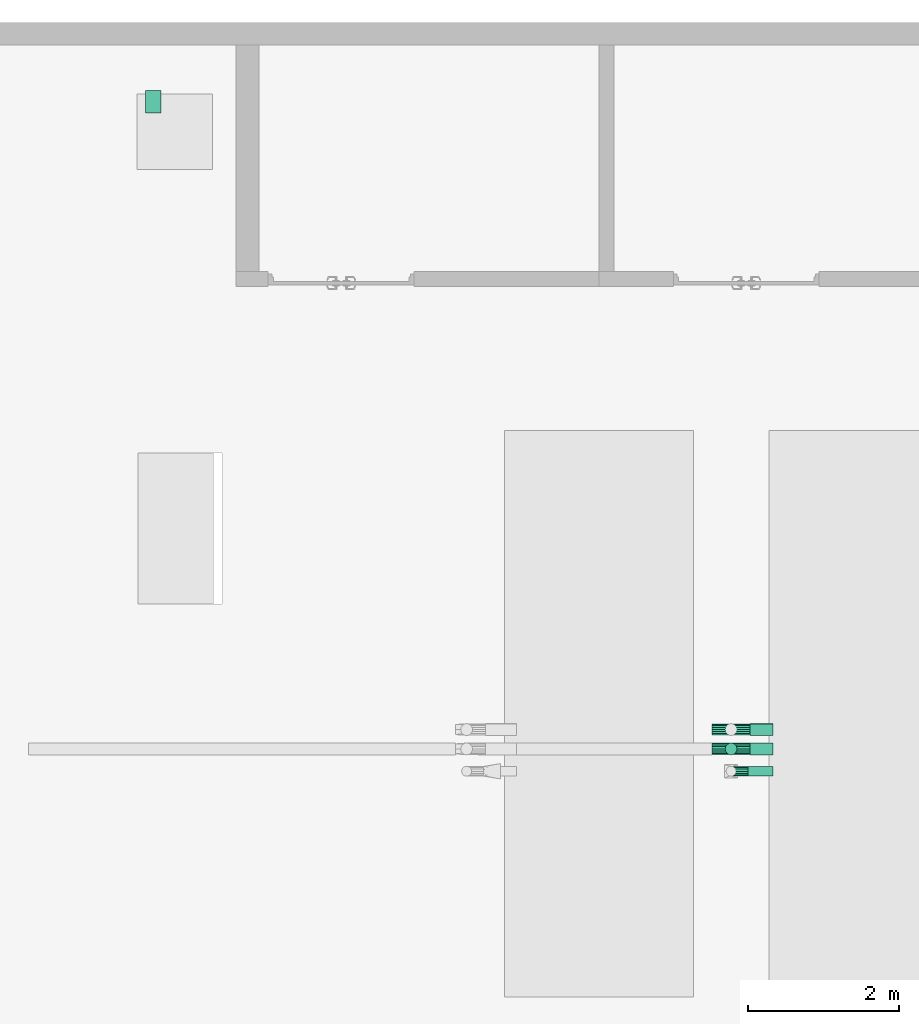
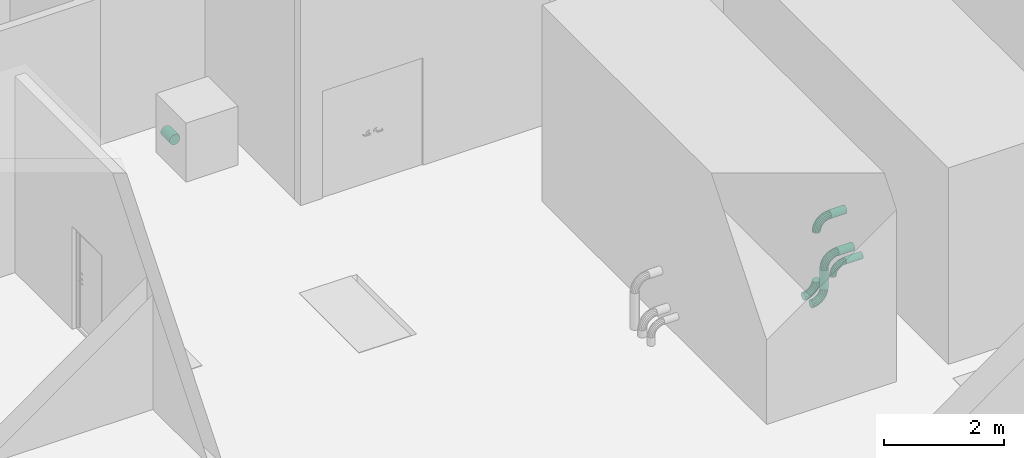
# One storey, part 21 of 23: 5 flow fittings, 5 flow segments.
"""IFC2X3 building model written with IfcOpenShell, lengths in millimetres."""

from ifc_helpers import new_model, entity, si_unit, converted_unit, direction, frame, origin, origin_2d_with_axis, place, context, subcontext, project, spatial, circle, extrude, faceted_brep, source, transform, mapped, material, type_object, type_shapes, element, save


model = new_model("IFC2X3")

# Units and contexts
model_context = context("Model", 3, precision=0.01, world=origin(), true_north=direction((6.123031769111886e-17, 1.0)))
body_context = subcontext(model_context, "Body", "Model", "MODEL_VIEW")
ifc_project = project(units=[si_unit("LENGTHUNIT", "METRE", prefix="MILLI"), converted_unit("PLANEANGLEUNIT", "DEGREE", entity("IfcPlaneAngleMeasure", 0.017453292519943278), si_unit("PLANEANGLEUNIT", "RADIAN"), dimensions=[0, 0, 0, 0, 0, 0, 0]), si_unit("AREAUNIT", "SQUARE_METRE")], contexts=[model_context])

# Site, building, storey
site_placement = place(None, frame((7776.576483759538, 118.3519876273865, 0.0)))
site = spatial("IfcSite", under=ifc_project, at=site_placement, Name="Default", CompositionType="ELEMENT")
building_placement = place(site_placement, origin())
building = spatial("IfcBuilding", under=site, at=building_placement, Name="Bygning (endres i Project Information)", CompositionType="ELEMENT")
storey_placement = place(building_placement, frame((0.0, 0.0, 19000.0)))
storey = spatial("IfcBuildingStorey", under=building, at=storey_placement, Name="Plan 01", CompositionType="ELEMENT", Elevation=19000.0)

# Flow segments
ifc_material = material(Name="SS 2343 Rustfritt stål, prosessrør, generisk")
pipe_segment_type = type_object("IfcPipeSegmentType", Name="Pipe Types:AISI 304L Rustfritt", PredefinedType="NOTDEFINED", material=ifc_material)
flow_segment_1_placement = place(storey_placement, origin())
element("IfcFlowSegment", 1, at=flow_segment_1_placement, inside=storey, type_object=pipe_segment_type, Name="Pipe Types:AISI 304L Rustfritt", ObjectType="Pipe Types:AISI 304L Rustfritt", context=body_context, shape_type="SweptSolid", body=[
    extrude(circle(Radius=78.0, at=origin_2d_with_axis()), frame((28074.001374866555, 25237.75730578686, 996.2612635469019), z_axis=(1.0, 0.0, 0.0), x_axis=(0.0, 1.0, 0.0)), (0.0, 0.0, 1.0), 301.8308970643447),
])
flow_segment_2_placement = place(storey_placement, origin())
element("IfcFlowSegment", 2, at=flow_segment_2_placement, inside=storey, type_object=pipe_segment_type, Name="Pipe Types:AISI 304L Rustfritt", ObjectType="Pipe Types:AISI 304L Rustfritt", context=body_context, shape_type="SweptSolid", body=[
    extrude(circle(Radius=78.0, at=origin_2d_with_axis()), frame((28074.001374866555, 24981.757305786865, 396.26126354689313), z_axis=(1.0, 0.0, 0.0), x_axis=(0.0, -1.0, 0.0)), (0.0, 0.0, 1.0), 301.8308970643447),
])
flow_segment_3_placement = place(storey_placement, origin())
element("IfcFlowSegment", 3, at=flow_segment_3_placement, inside=storey, type_object=pipe_segment_type, Name="Pipe Types:AISI 304L Rustfritt", ObjectType="Pipe Types:AISI 304L Rustfritt", context=body_context, shape_type="SweptSolid", body=[
    extrude(circle(Radius=78.0, at=origin_2d_with_axis()), frame((27824.001374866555, 24981.757305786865, -250.0)), (0.0, 0.0, 1.0), 396.2612635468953),
])
flow_segment_4_placement = place(storey_placement, origin())
element("IfcFlowSegment", 4, at=flow_segment_4_placement, inside=storey, type_object=pipe_segment_type, Name="Pipe Types:AISI 304L Rustfritt", ObjectType="Pipe Types:AISI 304L Rustfritt", context=body_context, shape_type="SweptSolid", body=[
    extrude(circle(Radius=65.5, at=origin_2d_with_axis()), frame((28049.00137486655, 24685.757305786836, 396.30000000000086), z_axis=(1.0, 0.0, 0.0), x_axis=(0.0, 1.0, 0.0)), (0.0, 0.0, 1.0), 326.8308970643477),
])
flow_segment_5_placement = place(storey_placement, origin())
element("IfcFlowSegment", 5, at=flow_segment_5_placement, inside=storey, type_object=pipe_segment_type, Name="Pipe Types:AISI 304L Rustfritt", ObjectType="Pipe Types:AISI 304L Rustfritt", context=body_context, shape_type="SweptSolid", body=[
    extrude(circle(Radius=103.0, at=origin_2d_with_axis()), frame((20177.001374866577, 33394.757305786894, 338.4197105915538), z_axis=(0.0, 1.0, 0.0), x_axis=(-1.0, 0.0, 0.0)), (0.0, 0.0, 1.0), 300.0000000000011),
])

# Flow fittings
pipe_fitting_type_1 = type_object("IfcPipeFittingType", Name="VA_prosess_rustfritt_bend_D+100:VA_prosess_rustfritt_bend_D+100", PredefinedType="NOTDEFINED", material=ifc_material)
shared_shape_1 = source(origin(), body_context, "Body", "Brep", [
    faceted_brep([(-177.68069646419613, -66.85157145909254, 0.0), (-178.95107627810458, -61.28567382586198, 28.701257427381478), (-250.0, -69.29096493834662, 28.701257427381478), (-250.0, -75.0, 0.0), (-182.56881190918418, -45.43533838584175, 53.033008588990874), (-250.0, -53.03300858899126, 53.033008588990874), (-187.98313590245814, -21.7136350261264, 69.29096493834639), (-250.0, -28.70125742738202, 69.29096493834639), (-194.36976651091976, 6.268021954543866, 75.0), (-250.0, 0.0, 75.0), (-200.7563971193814, 34.24967893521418, 69.29096493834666), (-250.0, 28.701257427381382, 69.29096493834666), (-206.17072111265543, 57.97138229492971, 53.033008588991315), (-250.0, 53.03300858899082, 53.033008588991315), (-209.78845674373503, 73.82171773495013, 28.70125742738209), (-250.0, 69.29096493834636, 28.70125742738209), (-211.05883655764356, 79.38761536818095, 0.0), (-250.0, 75.0, 0.0), (-209.78845674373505, 73.82171773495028, -28.70125742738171), (-250.0, 69.29096493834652, -28.70125742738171), (-206.17072111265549, 57.971382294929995, -53.03300858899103), (-250.0, 53.03300858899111, -53.03300858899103), (-200.75639711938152, 34.24967893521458, -69.29096493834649), (-250.0, 28.701257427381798, -69.29096493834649), (-194.36976651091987, 6.268021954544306, -75.0), (-250.0, 0.0, -75.0), (-187.98313590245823, -21.713635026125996, -69.29096493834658), (-250.0, -28.701257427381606, -69.29096493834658), (-182.56881190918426, -45.43533838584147, -53.033008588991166), (-250.0, -53.033008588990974, -53.033008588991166), (-178.95107627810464, -61.28567382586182, -28.7012574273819), (-250.0, -69.29096493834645, -28.7012574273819), (-108.9877847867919, -42.814882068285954, 0.0), (-111.4648422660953, -37.67121921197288, 28.701257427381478), (-118.5189051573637, -23.023306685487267, 53.033008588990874), (-129.07605633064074, -1.1011563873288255, 69.29096493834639), (-141.52906522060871, 24.75778302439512, 75.0), (-153.98207411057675, 50.6167224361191, 69.29096493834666), (-164.53922528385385, 72.53887273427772, 53.033008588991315), (-171.5932881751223, 87.18678526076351, 28.70125742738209), (-174.07034565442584, 92.33044811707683, 0.0), (-171.59328817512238, 87.18678526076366, -28.70125742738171), (-164.53922528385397, 72.53887273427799, -53.03300858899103), (-153.98207411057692, 50.616722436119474, -69.29096493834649), (-141.5290652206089, 24.757783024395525, -75.0), (-129.0760563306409, -1.1011563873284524, -69.29096493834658), (-118.51890515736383, -23.02330668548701, -53.033008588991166), (-111.46484226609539, -37.67121921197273, -28.7012574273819), (-47.365814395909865, -4.095231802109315, 0.0), (-50.92533953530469, 0.36827154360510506, 28.701257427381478), (-61.062009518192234, 13.079253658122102, 53.033008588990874), (-76.23260822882, 32.10258273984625, 69.29096493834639), (-94.12754953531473, 54.54212938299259, 75.0), (-112.02249084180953, 76.98167602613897, 69.29096493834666), (-127.19308955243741, 96.00500510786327, 53.033008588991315), (-137.32975953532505, 108.71598722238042, 28.70125742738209), (-140.88928467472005, 113.17949056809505, 0.0), (-137.32975953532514, 108.71598722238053, -28.70125742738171), (-127.19308955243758, 96.0050051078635, -53.03300858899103), (-112.02249084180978, 76.9816760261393, -69.29096493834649), (-94.12754953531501, 54.54212938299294, -75.0), (-76.23260822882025, 32.10258273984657, -69.29096493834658), (-61.06200951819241, 13.079253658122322, -53.033008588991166), (-50.92533953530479, 0.36827154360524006, -28.7012574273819), (4.095231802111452, 47.36581439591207, 0.0), (-0.36827154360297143, 50.9253395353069, 28.701257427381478), (-13.079253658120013, 61.06200951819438, 53.033008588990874), (-32.10258273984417, 76.23260822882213, 69.29096493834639), (-54.54212938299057, 94.12754953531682, 75.0), (-76.981676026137, 112.02249084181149, 69.29096493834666), (-96.00500510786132, 127.19308955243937, 53.033008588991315), (-108.71598722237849, 137.32975953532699, 28.70125742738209), (-113.17949056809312, 140.88928467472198, 0.0), (-108.71598722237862, 137.32975953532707, -28.70125742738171), (-96.00500510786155, 127.19308955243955, -53.03300858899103), (-76.98167602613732, 112.02249084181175, -69.29096493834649), (-54.542129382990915, 94.1275495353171, -75.0), (-32.1025827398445, 76.23260822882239, -69.29096493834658), (-13.079253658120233, 61.06200951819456, -53.033008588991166), (-0.3682715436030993, 50.925339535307, -28.7012574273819), (42.81488206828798, 108.98778478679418, 0.0), (37.671219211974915, 111.4648422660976, 28.701257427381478), (23.023306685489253, 118.51890515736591, 53.033008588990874), (1.1011563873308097, 129.0760563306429, 69.29096493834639), (-24.75778302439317, 141.52906522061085, 75.0), (-50.61672243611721, 153.98207411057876, 69.29096493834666), (-72.53887273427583, 164.53922528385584, 53.033008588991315), (-87.18678526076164, 171.59328817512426, 28.70125742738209), (-92.33044811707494, 174.0703456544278, 0.0), (-87.18678526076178, 171.59328817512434, -28.70125742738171), (-72.53887273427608, 164.53922528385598, -53.03300858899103), (-50.61672243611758, 153.98207411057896, -69.29096493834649), (-24.757783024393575, 141.52906522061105, -75.0), (1.101156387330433, 129.0760563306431, -69.29096493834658), (23.023306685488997, 118.51890515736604, -53.033008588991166), (37.67121921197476, 111.46484226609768, -28.7012574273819), (66.8515714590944, 177.68069646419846, 0.0), (61.285673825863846, 178.9510762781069, 28.701257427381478), (45.4353383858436, 182.56881190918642, 53.033008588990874), (21.713635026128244, 187.98313590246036, 69.29096493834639), (-6.268021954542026, 194.36976651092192, 75.0), (-34.24967893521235, 200.75639711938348, 69.29096493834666), (-57.9713822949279, 206.17072111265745, 53.033008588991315), (-73.82171773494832, 209.78845674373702, 28.70125742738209), (-79.38761536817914, 211.05883655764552, 0.0), (-73.82171773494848, 209.78845674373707, -28.70125742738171), (-57.97138229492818, 206.1707211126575, -53.03300858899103), (-34.249678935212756, 200.75639711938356, -69.29096493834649), (-6.268021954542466, 194.36976651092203, -75.0), (21.71363502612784, 187.98313590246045, -69.29096493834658), (45.43533838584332, 182.5688119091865, -53.033008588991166), (61.28567382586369, 178.95107627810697, -28.7012574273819), (75.0, 250.0, 0.0), (69.29096493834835, 250.0, 28.701257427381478), (53.033008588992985, 250.0, 53.033008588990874), (28.701257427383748, 250.0, 69.29096493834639), (0.0, 250.0, 75.0), (-28.701257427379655, 250.0, 69.29096493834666), (-53.03300858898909, 250.0, 53.033008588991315), (-69.29096493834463, 250.0, 28.70125742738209), (-75.0, 250.0, 0.0), (-69.29096493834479, 250.0, -28.70125742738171), (-53.03300858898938, 250.0, -53.03300858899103), (-28.70125742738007, 250.0, -69.29096493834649), (0.0, 250.0, -75.0), (28.701257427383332, 250.0, -69.29096493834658), (53.0330085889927, 250.0, -53.033008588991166), (69.29096493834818, 250.0, -28.7012574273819)], [[[0, 1, 2, 3]], [[1, 4, 5, 2]], [[4, 6, 7, 5]], [[6, 8, 9, 7]], [[8, 10, 11, 9]], [[10, 12, 13, 11]], [[12, 14, 15, 13]], [[14, 16, 17, 15]], [[16, 18, 19, 17]], [[18, 20, 21, 19]], [[20, 22, 23, 21]], [[22, 24, 25, 23]], [[24, 26, 27, 25]], [[26, 28, 29, 27]], [[28, 30, 31, 29]], [[30, 0, 3, 31]], [[32, 33, 1, 0]], [[33, 34, 4, 1]], [[34, 35, 6, 4]], [[35, 36, 8, 6]], [[36, 37, 10, 8]], [[37, 38, 12, 10]], [[38, 39, 14, 12]], [[39, 40, 16, 14]], [[40, 41, 18, 16]], [[41, 42, 20, 18]], [[42, 43, 22, 20]], [[43, 44, 24, 22]], [[44, 45, 26, 24]], [[45, 46, 28, 26]], [[46, 47, 30, 28]], [[47, 32, 0, 30]], [[48, 49, 33, 32]], [[49, 50, 34, 33]], [[50, 51, 35, 34]], [[51, 52, 36, 35]], [[52, 53, 37, 36]], [[53, 54, 38, 37]], [[54, 55, 39, 38]], [[55, 56, 40, 39]], [[56, 57, 41, 40]], [[57, 58, 42, 41]], [[58, 59, 43, 42]], [[59, 60, 44, 43]], [[60, 61, 45, 44]], [[61, 62, 46, 45]], [[62, 63, 47, 46]], [[63, 48, 32, 47]], [[64, 65, 49, 48]], [[65, 66, 50, 49]], [[66, 67, 51, 50]], [[67, 68, 52, 51]], [[68, 69, 53, 52]], [[69, 70, 54, 53]], [[70, 71, 55, 54]], [[71, 72, 56, 55]], [[72, 73, 57, 56]], [[73, 74, 58, 57]], [[74, 75, 59, 58]], [[75, 76, 60, 59]], [[76, 77, 61, 60]], [[77, 78, 62, 61]], [[78, 79, 63, 62]], [[79, 64, 48, 63]], [[80, 81, 65, 64]], [[81, 82, 66, 65]], [[82, 83, 67, 66]], [[83, 84, 68, 67]], [[84, 85, 69, 68]], [[85, 86, 70, 69]], [[86, 87, 71, 70]], [[87, 88, 72, 71]], [[88, 89, 73, 72]], [[89, 90, 74, 73]], [[90, 91, 75, 74]], [[91, 92, 76, 75]], [[92, 93, 77, 76]], [[93, 94, 78, 77]], [[94, 95, 79, 78]], [[95, 80, 64, 79]], [[96, 97, 81, 80]], [[97, 98, 82, 81]], [[98, 99, 83, 82]], [[99, 100, 84, 83]], [[100, 101, 85, 84]], [[101, 102, 86, 85]], [[102, 103, 87, 86]], [[103, 104, 88, 87]], [[104, 105, 89, 88]], [[105, 106, 90, 89]], [[106, 107, 91, 90]], [[107, 108, 92, 91]], [[108, 109, 93, 92]], [[109, 110, 94, 93]], [[110, 111, 95, 94]], [[111, 96, 80, 95]], [[112, 113, 97, 96]], [[113, 114, 98, 97]], [[114, 115, 99, 98]], [[115, 116, 100, 99]], [[116, 117, 101, 100]], [[117, 118, 102, 101]], [[118, 119, 103, 102]], [[119, 120, 104, 103]], [[120, 121, 105, 104]], [[121, 122, 106, 105]], [[122, 123, 107, 106]], [[123, 124, 108, 107]], [[124, 125, 109, 108]], [[125, 126, 110, 109]], [[126, 127, 111, 110]], [[127, 112, 96, 111]], [[3, 2, 5, 7, 9, 11, 13, 15, 17, 19, 21, 23, 25, 27, 29, 31]], [[127, 126, 125, 124, 123, 122, 121, 120, 119, 118, 117, 116, 115, 114, 113, 112]]]),
])
type_shapes(pipe_fitting_type_1, [shared_shape_1])
for number, where, z_axis, x_axis in (
    (6, (27824.001374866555, 25237.75730578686, 996.2612635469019), (0.0, -1.0, 0.0), (-1.0, 0.0, 0.0)),
    (7, (27824.001374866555, 25237.75730578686, -500.0), (0.0, 1.0, 0.0), (0.0, 0.0, -1.0)),
    (8, (27824.001374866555, 24981.757305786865, -500.0), (0.0, 1.0, 0.0), (0.0, 0.0, -1.0)),
    (9, (27824.001374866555, 24981.757305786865, 396.26126354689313), (0.0, 1.0, 0.0), (0.0, 0.0, 1.0)),
):
    element("IfcFlowFitting", number, at=place(storey_placement, frame(where, z_axis=z_axis, x_axis=x_axis)), inside=storey, type_object=pipe_fitting_type_1, material=ifc_material, Name="VA_prosess_rustfritt_bend_D+100:VA_prosess_rustfritt_bend_D+100", ObjectType="VA_prosess_rustfritt_bend_D+100:VA_prosess_rustfritt_bend_D+100", context=body_context, shape_type="MappedRepresentation", body=[
        mapped(shared_shape_1, transform((0.0, 0.0, 0.0), scale=1.0)),
    ])
pipe_fitting_type_2 = type_object("IfcPipeFittingType", Name="VA_prosess_rustfritt_bend_D+100:VA_prosess_rustfritt_bend_D+100", PredefinedType="NOTDEFINED", material=ifc_material)
shared_shape_2 = source(origin(), body_context, "Body", "Brep", [
    faceted_brep([(-161.02523148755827, -55.291774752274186, 0.0), (-162.4025127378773, -49.25751132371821, 27.117733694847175), (-225.0, -56.310554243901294, 27.117733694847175), (-225.0, -62.50000000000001, 0.0), (-166.26156904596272, -32.34988091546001, 48.86446765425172), (-225.0, -38.968112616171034, 48.86446765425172), (-171.83806698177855, -7.917647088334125, 60.93299451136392), (-225.0, -13.907558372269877, 60.93299451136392), (-178.0275127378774, 19.20008660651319, 60.93299451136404), (-225.0, 13.90755837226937, 60.93299451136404), (-183.60401067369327, 43.632320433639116, 48.86446765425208), (-225.0, 38.96811261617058, 48.86446765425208), (-187.46306698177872, 60.53995084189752, 27.117733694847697), (-225.0, 56.31055424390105, 27.117733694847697), (-188.8403482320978, 66.57421427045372, 0.0), (-225.0, 62.50000000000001, 0.0), (-187.46306698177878, 60.53995084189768, -27.117733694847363), (-225.0, 56.31055424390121, -27.117733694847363), (-183.60401067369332, 43.63232043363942, -48.86446765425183), (-225.0, 38.96811261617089, -48.86446765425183), (-178.0275127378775, 19.20008660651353, -60.932994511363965), (-225.0, 13.90755837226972, -60.932994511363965), (-171.8380669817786, -7.917647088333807, -60.932994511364), (-225.0, -13.907558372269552, -60.932994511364), (-166.26156904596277, -32.34988091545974, -48.864467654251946), (-225.0, -38.96811261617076, -48.864467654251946), (-162.40251273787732, -49.25751132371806, -27.11773369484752), (-225.0, -56.31055424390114, -27.11773369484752), (-100.25842500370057, -34.028549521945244, 0.0), (-102.94392487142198, -28.452051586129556, 27.117733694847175), (-110.46852829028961, -12.82705158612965, 48.86446765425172), (-121.34189526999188, 9.751727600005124, 60.93299451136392), (-133.41042212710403, 34.812281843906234, 60.93299451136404), (-144.28378910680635, 57.39106103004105, 48.86446765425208), (-151.80839252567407, 73.01606103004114, 27.117733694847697), (-154.49389239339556, 78.59255896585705, 0.0), (-151.80839252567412, 73.01606103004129, -27.117733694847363), (-144.28378910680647, 57.391061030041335, -48.86446765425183), (-133.4104221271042, 34.812281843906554, -60.932994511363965), (-121.34189526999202, 9.751727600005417, -60.932994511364), (-110.46852829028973, -12.827051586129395, -48.864467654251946), (-102.94392487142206, -28.452051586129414, -27.11773369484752), (-45.74668196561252, 0.22344879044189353, 0.0), (-49.60573827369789, 5.06255234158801, 27.117733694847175), (-60.4185737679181, 18.621419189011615, 48.86446765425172), (-76.04357376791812, 38.2145494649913, 60.93299451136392), (-93.3860153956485, 59.96128342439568, 60.93299451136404), (-109.01101539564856, 79.5544137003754, 48.86446765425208), (-119.8238508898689, 93.11328054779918, 27.117733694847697), (-123.68290719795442, 97.95238409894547, 0.0), (-119.82385088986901, 93.11328054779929, -27.117733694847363), (-109.01101539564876, 79.55441370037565, -48.86446765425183), (-93.38601539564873, 59.96128342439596, -60.932994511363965), (-76.04357376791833, 38.214549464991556, -60.932994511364), (-60.418573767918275, 18.62141918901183, -48.864467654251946), (-49.60573827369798, 5.06255234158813, -27.11773369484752), (-0.22344879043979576, 45.7466819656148, 0.0), (-5.062552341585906, 49.60573827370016, 27.117733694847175), (-18.621419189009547, 60.41857376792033, 48.86446765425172), (-38.2145494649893, 76.04357376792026, 60.93299451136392), (-59.96128342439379, 93.38601539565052, 60.93299451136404), (-79.55441370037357, 109.01101539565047, 48.86446765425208), (-93.11328054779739, 119.82385088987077, 27.117733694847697), (-97.9523840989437, 123.6829071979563, 0.0), (-93.1132805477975, 119.82385088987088, -27.117733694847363), (-79.55441370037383, 109.01101539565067, -48.86446765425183), (-59.96128342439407, 93.38601539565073, -60.932994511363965), (-38.21454946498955, 76.04357376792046, -60.932994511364), (-18.621419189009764, 60.418573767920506, -48.864467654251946), (-5.062552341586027, 49.60573827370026, -27.11773369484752), (34.02854952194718, 100.25842500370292, 0.0), (28.452051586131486, 102.94392487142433, 27.117733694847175), (12.827051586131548, 110.4685282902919, 48.86446765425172), (-9.751727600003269, 121.34189526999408, 60.93299451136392), (-34.81228184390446, 133.4104221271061, 60.93299451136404), (-57.39106103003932, 144.28378910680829, 48.86446765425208), (-73.01606103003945, 151.80839252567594, 27.117733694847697), (-78.59255896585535, 154.4938923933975, 0.0), (-73.0160610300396, 151.80839252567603, -27.117733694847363), (-57.3910610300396, 144.28378910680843, -48.86446765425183), (-34.81228184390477, 133.41042212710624, -60.932994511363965), (-9.751727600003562, 121.34189526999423, -60.932994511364), (12.827051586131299, 110.46852829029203, -48.864467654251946), (28.452051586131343, 102.9439248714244, -27.11773369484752), (55.29177475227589, 161.0252314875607, 0.0), (49.257511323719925, 162.40251273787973, 27.117733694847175), (32.34988091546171, 166.2615690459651, 48.86446765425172), (7.917647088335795, 171.8380669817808, 60.93299451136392), (-19.200086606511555, 178.02751273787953, 60.93299451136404), (-43.63232043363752, 183.60401067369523, 48.86446765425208), (-60.539950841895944, 187.46306698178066, 27.117733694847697), (-66.57421427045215, 188.84034823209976, 0.0), (-60.53995084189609, 187.46306698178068, -27.117733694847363), (-43.63232043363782, 183.6040106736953, -48.86446765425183), (-19.2000866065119, 178.02751273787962, -60.932994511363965), (7.917647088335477, 171.83806698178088, -60.932994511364), (32.34988091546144, 166.26156904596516, -48.864467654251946), (49.257511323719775, 162.40251273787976, -27.11773369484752), (62.500000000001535, 225.0, 0.0), (56.31055424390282, 225.0, 27.117733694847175), (38.96811261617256, 225.0, 48.86446765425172), (13.9075583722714, 225.0, 60.93299451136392), (-13.907558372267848, 225.0, 60.93299451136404), (-38.96811261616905, 225.0, 48.86446765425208), (-56.310554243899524, 225.0, 27.117733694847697), (-62.49999999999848, 225.0, 0.0), (-56.31055424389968, 225.0, -27.117733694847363), (-38.968112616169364, 225.0, -48.86446765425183), (-13.907558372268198, 225.0, -60.932994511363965), (13.907558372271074, 225.0, -60.932994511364), (38.968112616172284, 225.0, -48.864467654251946), (56.310554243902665, 225.0, -27.11773369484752)], [[[0, 1, 2, 3]], [[1, 4, 5, 2]], [[4, 6, 7, 5]], [[6, 8, 9, 7]], [[8, 10, 11, 9]], [[10, 12, 13, 11]], [[12, 14, 15, 13]], [[14, 16, 17, 15]], [[16, 18, 19, 17]], [[18, 20, 21, 19]], [[20, 22, 23, 21]], [[22, 24, 25, 23]], [[24, 26, 27, 25]], [[26, 0, 3, 27]], [[28, 29, 1, 0]], [[29, 30, 4, 1]], [[30, 31, 6, 4]], [[31, 32, 8, 6]], [[32, 33, 10, 8]], [[33, 34, 12, 10]], [[34, 35, 14, 12]], [[35, 36, 16, 14]], [[36, 37, 18, 16]], [[37, 38, 20, 18]], [[38, 39, 22, 20]], [[39, 40, 24, 22]], [[40, 41, 26, 24]], [[41, 28, 0, 26]], [[42, 43, 29, 28]], [[43, 44, 30, 29]], [[44, 45, 31, 30]], [[45, 46, 32, 31]], [[46, 47, 33, 32]], [[47, 48, 34, 33]], [[48, 49, 35, 34]], [[49, 50, 36, 35]], [[50, 51, 37, 36]], [[51, 52, 38, 37]], [[52, 53, 39, 38]], [[53, 54, 40, 39]], [[54, 55, 41, 40]], [[55, 42, 28, 41]], [[56, 57, 43, 42]], [[57, 58, 44, 43]], [[58, 59, 45, 44]], [[59, 60, 46, 45]], [[60, 61, 47, 46]], [[61, 62, 48, 47]], [[62, 63, 49, 48]], [[63, 64, 50, 49]], [[64, 65, 51, 50]], [[65, 66, 52, 51]], [[66, 67, 53, 52]], [[67, 68, 54, 53]], [[68, 69, 55, 54]], [[69, 56, 42, 55]], [[70, 71, 57, 56]], [[71, 72, 58, 57]], [[72, 73, 59, 58]], [[73, 74, 60, 59]], [[74, 75, 61, 60]], [[75, 76, 62, 61]], [[76, 77, 63, 62]], [[77, 78, 64, 63]], [[78, 79, 65, 64]], [[79, 80, 66, 65]], [[80, 81, 67, 66]], [[81, 82, 68, 67]], [[82, 83, 69, 68]], [[83, 70, 56, 69]], [[84, 85, 71, 70]], [[85, 86, 72, 71]], [[86, 87, 73, 72]], [[87, 88, 74, 73]], [[88, 89, 75, 74]], [[89, 90, 76, 75]], [[90, 91, 77, 76]], [[91, 92, 78, 77]], [[92, 93, 79, 78]], [[93, 94, 80, 79]], [[94, 95, 81, 80]], [[95, 96, 82, 81]], [[96, 97, 83, 82]], [[97, 84, 70, 83]], [[98, 99, 85, 84]], [[99, 100, 86, 85]], [[100, 101, 87, 86]], [[101, 102, 88, 87]], [[102, 103, 89, 88]], [[103, 104, 90, 89]], [[104, 105, 91, 90]], [[105, 106, 92, 91]], [[106, 107, 93, 92]], [[107, 108, 94, 93]], [[108, 109, 95, 94]], [[109, 110, 96, 95]], [[110, 111, 97, 96]], [[111, 98, 84, 97]], [[3, 2, 5, 7, 9, 11, 13, 15, 17, 19, 21, 23, 25, 27]], [[111, 110, 109, 108, 107, 106, 105, 104, 103, 102, 101, 100, 99, 98]]]),
])
type_shapes(pipe_fitting_type_2, [shared_shape_2])
flow_fitting_placement = place(storey_placement, frame((27824.00137486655, 24685.757305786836, 396.30000000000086), z_axis=(0.0, -1.0, 0.0), x_axis=(-1.0, 0.0, 0.0)))
element("IfcFlowFitting", 10, at=flow_fitting_placement, inside=storey, type_object=pipe_fitting_type_2, material=ifc_material, Name="VA_prosess_rustfritt_bend_D+100:VA_prosess_rustfritt_bend_D+100", ObjectType="VA_prosess_rustfritt_bend_D+100:VA_prosess_rustfritt_bend_D+100", context=body_context, shape_type="MappedRepresentation", body=[
    mapped(shared_shape_2, transform((0.0, 0.0, 0.0), scale=1.0)),
])

save(model, "model.ifc")
